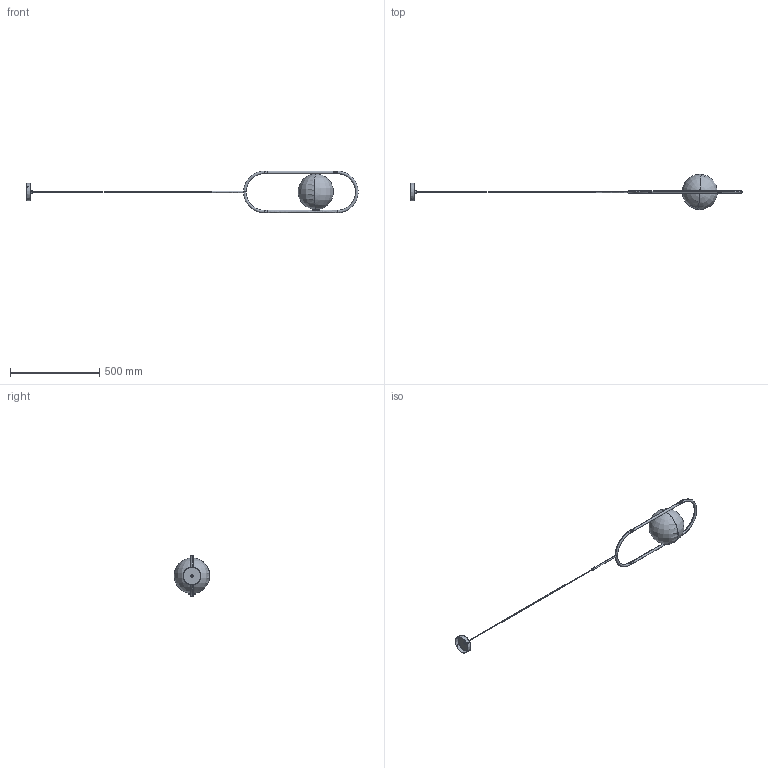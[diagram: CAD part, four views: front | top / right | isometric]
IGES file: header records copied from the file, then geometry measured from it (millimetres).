
Start section: SolidWorks IGES file using analytic representation for surfaces
Global section: file name: C:\Users\Agus\Desktop\AROMAS\2018\C1258 - colgante 1 luz con cable\3D\C1258-1.IGS; native system: SolidWorks 2018; preprocessor: SolidWorks 2018; author: Agus; date: 190213.120706; units: millimetre
Bounding box: 1863.78 x 199.42 x 234 mm (x, y, z)
Surface area: 430299.1 mm2 (no closed solid volume)
Topology: 0 solids, 0 shells, 221 faces, 5406 edges, 5405 vertices
Faces by surface type: revolution 146, bspline 75
